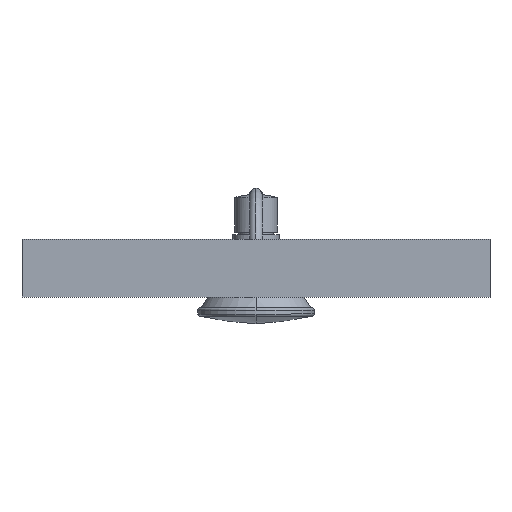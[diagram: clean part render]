
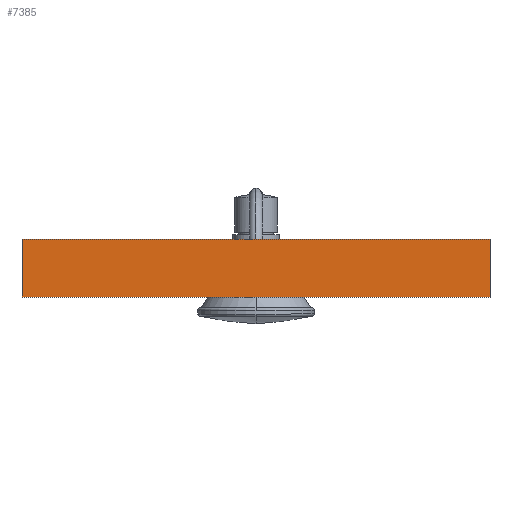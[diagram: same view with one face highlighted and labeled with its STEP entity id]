
A CAD part, front view. The second image highlights one B-rep face of the part: STEP entity #7385.
In plain terms, the highlighted planar face has unit normal (0, -1, 0).
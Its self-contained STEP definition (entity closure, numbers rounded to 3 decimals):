
#7346=CARTESIAN_POINT('',(-194.,0.0,-24.));
#7347=DIRECTION('',(0.0,-1.0,0.0));
#7348=DIRECTION('',(0.0,0.0,1.0));
#7349=AXIS2_PLACEMENT_3D('',#7346,#7347,#7348);
#7350=PLANE('',#7349);
#7351=CARTESIAN_POINT('',(194.,0.0,-24.));
#7352=VERTEX_POINT('',#7351);
#7353=CARTESIAN_POINT('',(194.,0.0,24.));
#7354=VERTEX_POINT('',#7353);
#7355=CARTESIAN_POINT('',(194.,0.0,-24.));
#7356=DIRECTION('',(0.0,0.0,1.0));
#7357=VECTOR('',#7356,48.0);
#7358=LINE('',#7355,#7357);
#7359=EDGE_CURVE('',#7352,#7354,#7358,.T.);
#7360=ORIENTED_EDGE('',*,*,#7359,.T.);
#7361=CARTESIAN_POINT('',(-194.,0.0,24.));
#7362=VERTEX_POINT('',#7361);
#7363=CARTESIAN_POINT('',(-194.,0.0,24.));
#7364=DIRECTION('',(1.0,0.0,0.0));
#7365=VECTOR('',#7364,388.);
#7366=LINE('',#7363,#7365);
#7367=EDGE_CURVE('',#7362,#7354,#7366,.T.);
#7368=ORIENTED_EDGE('',*,*,#7367,.F.);
#7369=CARTESIAN_POINT('',(-194.,0.0,-24.));
#7370=VERTEX_POINT('',#7369);
#7371=CARTESIAN_POINT('',(-194.,0.0,-24.));
#7372=DIRECTION('',(0.0,0.0,1.0));
#7373=VECTOR('',#7372,48.0);
#7374=LINE('',#7371,#7373);
#7375=EDGE_CURVE('',#7370,#7362,#7374,.T.);
#7376=ORIENTED_EDGE('',*,*,#7375,.F.);
#7377=CARTESIAN_POINT('',(-194.,0.0,-24.));
#7378=DIRECTION('',(1.0,0.0,0.0));
#7379=VECTOR('',#7378,388.);
#7380=LINE('',#7377,#7379);
#7381=EDGE_CURVE('',#7370,#7352,#7380,.T.);
#7382=ORIENTED_EDGE('',*,*,#7381,.T.);
#7383=EDGE_LOOP('',(#7360,#7368,#7376,#7382));
#7384=FACE_OUTER_BOUND('',#7383,.T.);
#7385=ADVANCED_FACE('',(#7384),#7350,.T.);
